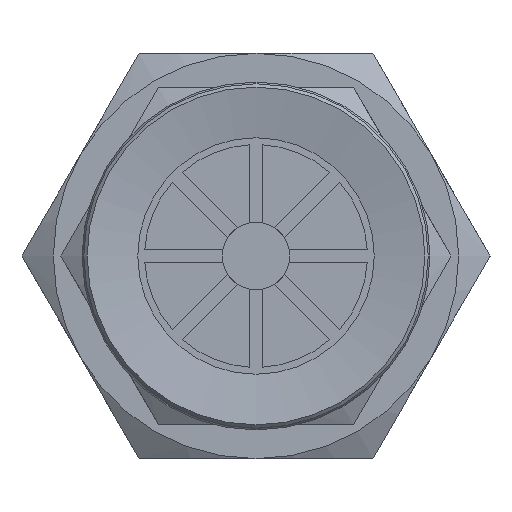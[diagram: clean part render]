
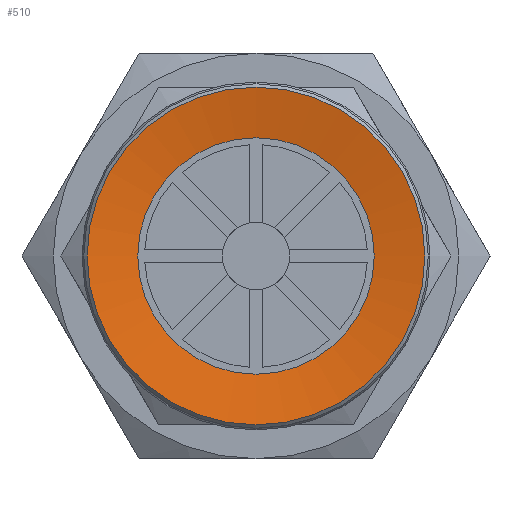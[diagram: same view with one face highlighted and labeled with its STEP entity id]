
A CAD part, front view. The second image highlights one B-rep face of the part: STEP entity #510.
In plain terms, the highlighted conical face has half-angle 80 degrees and reference radius 5 mm.
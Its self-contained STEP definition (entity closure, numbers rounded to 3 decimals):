
#510=ADVANCED_FACE('',(#811,#812),#813,.F.);
#811=FACE_BOUND('',#1150,.T.);
#812=FACE_OUTER_BOUND('',#1151,.T.);
#813=CONICAL_SURFACE('',#1152,5.0,1.396);
#1150=EDGE_LOOP('',(#1988));
#1151=EDGE_LOOP('',(#1989));
#1152=AXIS2_PLACEMENT_3D('',#1990,#1991,#1992);
#1988=ORIENTED_EDGE('',*,*,#2428,.T.);
#1989=ORIENTED_EDGE('',*,*,#2434,.F.);
#1990=CARTESIAN_POINT('',(0.0,0.,0.));
#1991=DIRECTION('',(0.0,0.,-1.0));
#1992=DIRECTION('',(0.0,1.0,0.));
#2428=EDGE_CURVE('',#2883,#2883,#2884,.T.);
#2434=EDGE_CURVE('',#2891,#2891,#2892,.T.);
#2883=VERTEX_POINT('',#3783);
#2884=CIRCLE('',#3784,3.5);
#2891=VERTEX_POINT('',#3794);
#2892=CIRCLE('',#3795,5.0);
#3783=CARTESIAN_POINT('',(0.0,-3.5,0.264));
#3784=AXIS2_PLACEMENT_3D('',#4240,#4241,#4242);
#3794=CARTESIAN_POINT('',(0.0,-5.0,0.));
#3795=AXIS2_PLACEMENT_3D('',#4252,#4253,#4254);
#4240=CARTESIAN_POINT('',(0.0,0.,0.264));
#4241=DIRECTION('',(0.0,0.,1.0));
#4242=DIRECTION('',(0.0,-1.0,0.));
#4252=CARTESIAN_POINT('',(0.0,0.,0.));
#4253=DIRECTION('',(0.0,0.,1.0));
#4254=DIRECTION('',(0.0,-1.0,0.));
